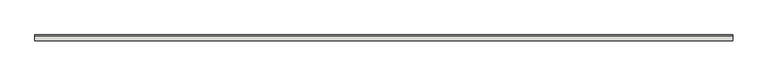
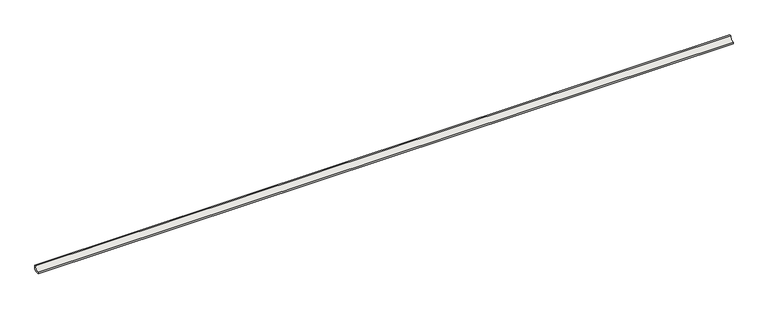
"""IFC4 building model written with IfcOpenShell, lengths in millimetres: slab geometry, ROSA GRES_188 : Pieza 188_Tao_Beige_Liso."""

from ifc_helpers import new_model, si_unit, point, frame, frame_2d, origin, place, context, project, spatial, polyline, circle_curve, trimmed, segment, composite_curve, outline, extrude, source, transform, mapped, element, save


def slab_e695d669(model_context):
    return source(origin(), model_context, "Body", "SweptSolid", [
        extrude(outline(composite_curve([segment(polyline([(0.0, 8.7114978), (-8.7114978, 0.0), (-40.0, 0.0), (-40.0, 9.9734114)]), True, "CONTINUOUS"), segment(trimmed(circle_curve(frame_2d((-39.9955547, 39.9955547)), 30.0221435), [point((-40.0, 9.9734114))], [point((-9.9734114, 40.0))], True, "CARTESIAN"), True, "CONTINUOUS"), segment(polyline([(-9.9734114, 40.0), (0.0, 40.0), (0.0, 8.7114978)]), True, "CONTINUOUS")], self_intersect=False)), frame((0.0, 0.0, 0.0), z_axis=(1.0, 0.0, 0.0), x_axis=(0.0, 1.0, 0.0)), (0.0, 0.0, 1.0), 4873.0),
    ])


if __name__ == "__main__":
    model = new_model("IFC4")
    model_context = context("Model", 3, world=origin())
    ifc_project = project(units=[si_unit("LENGTHUNIT", "METRE", prefix="MILLI")], contexts=[model_context])
    site = spatial("IfcSite", under=ifc_project)
    building = spatial("IfcBuilding", under=site)
    placement = place(None, origin())
    slab_shape = slab_e695d669(model_context)
    element("IfcSlab", 1, ObjectType="ROSA GRES_188 : Pieza 188_Tao_Beige_Liso", at=placement, inside=building, context=model_context, shape_type="MappedRepresentation", body=[
        mapped(slab_shape, transform((0.0, 0.0, 0.0), x_axis=(1.0, 0.0, 0.0), y_axis=(0.0, 1.0, 0.0), z_axis=(0.0, 0.0, 1.0))),
    ])
    save(model, "model.ifc")
